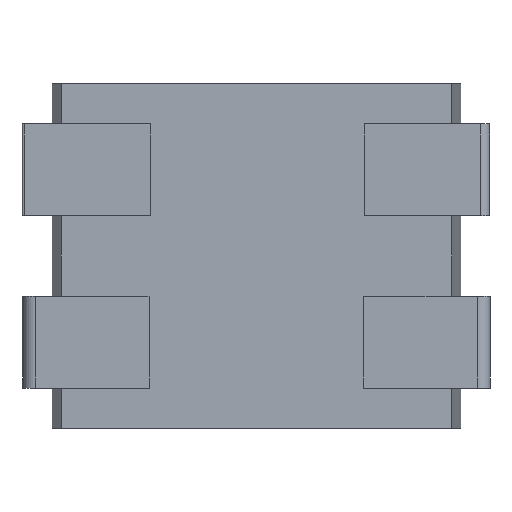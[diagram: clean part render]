
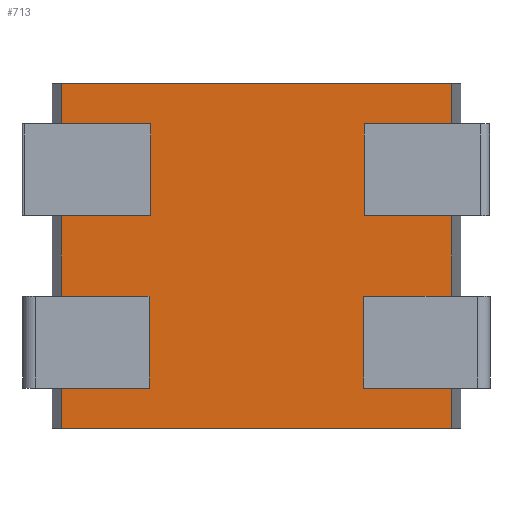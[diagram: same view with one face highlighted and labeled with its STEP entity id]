
A CAD part, front view. The second image highlights one B-rep face of the part: STEP entity #713.
In plain terms, the highlighted planar face has unit normal (0, -1, 0).
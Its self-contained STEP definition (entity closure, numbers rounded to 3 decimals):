
#72 = PLANE('',#73);
#73 = AXIS2_PLACEMENT_3D('',#74,#75,#76);
#74 = CARTESIAN_POINT('',(-1.702,1.057,3.));
#75 = DIRECTION('',(0.,0.,1.));
#76 = DIRECTION('',(1.,0.,0.));
#126 = PLANE('',#127);
#127 = AXIS2_PLACEMENT_3D('',#128,#129,#130);
#128 = CARTESIAN_POINT('',(-1.702,1.057,0.));
#129 = DIRECTION('',(0.,0.,1.));
#130 = DIRECTION('',(1.,0.,0.));
#301 = VERTEX_POINT('',#302);
#302 = CARTESIAN_POINT('',(1.698,-1.036,0.));
#316 = PLANE('',#317);
#317 = AXIS2_PLACEMENT_3D('',#318,#319,#320);
#318 = CARTESIAN_POINT('',(1.777,-0.14,0.));
#319 = DIRECTION('',(0.996,-0.087,0.));
#320 = DIRECTION('',(-0.087,-0.996,0.));
#328 = EDGE_CURVE('',#301,#329,#331,.T.);
#329 = VERTEX_POINT('',#330);
#330 = CARTESIAN_POINT('',(-1.702,-1.036,0.));
#331 = SURFACE_CURVE('',#332,(#336,#343),.PCURVE_S1.);
#332 = LINE('',#333,#334);
#333 = CARTESIAN_POINT('',(1.698,-1.036,0.));
#334 = VECTOR('',#335,1.);
#335 = DIRECTION('',(-1.,0.,0.));
#336 = PCURVE('',#126,#337);
#337 = DEFINITIONAL_REPRESENTATION('',(#338),#342);
#338 = LINE('',#339,#340);
#339 = CARTESIAN_POINT('',(3.4,-2.093));
#340 = VECTOR('',#341,1.);
#341 = DIRECTION('',(-1.,0.));
#342 = ( GEOMETRIC_REPRESENTATION_CONTEXT(2) 
PARAMETRIC_REPRESENTATION_CONTEXT() REPRESENTATION_CONTEXT('2D SPACE',''
  ) );
#343 = PCURVE('',#344,#349);
#344 = PLANE('',#345);
#345 = AXIS2_PLACEMENT_3D('',#346,#347,#348);
#346 = CARTESIAN_POINT('',(1.698,-1.036,0.));
#347 = DIRECTION('',(0.,-1.,0.));
#348 = DIRECTION('',(-1.,0.,0.));
#349 = DEFINITIONAL_REPRESENTATION('',(#350),#354);
#350 = LINE('',#351,#352);
#351 = CARTESIAN_POINT('',(0.,-0.));
#352 = VECTOR('',#353,1.);
#353 = DIRECTION('',(1.,0.));
#354 = ( GEOMETRIC_REPRESENTATION_CONTEXT(2) 
PARAMETRIC_REPRESENTATION_CONTEXT() REPRESENTATION_CONTEXT('2D SPACE',''
  ) );
#372 = PLANE('',#373);
#373 = AXIS2_PLACEMENT_3D('',#374,#375,#376);
#374 = CARTESIAN_POINT('',(-1.702,-1.036,0.));
#375 = DIRECTION('',(-0.996,-0.087,0.));
#376 = DIRECTION('',(-0.087,0.996,0.));
#457 = VERTEX_POINT('',#458);
#458 = CARTESIAN_POINT('',(1.698,-1.036,3.));
#479 = EDGE_CURVE('',#457,#480,#482,.T.);
#480 = VERTEX_POINT('',#481);
#481 = CARTESIAN_POINT('',(-1.702,-1.036,3.));
#482 = SURFACE_CURVE('',#483,(#487,#494),.PCURVE_S1.);
#483 = LINE('',#484,#485);
#484 = CARTESIAN_POINT('',(1.698,-1.036,3.));
#485 = VECTOR('',#486,1.);
#486 = DIRECTION('',(-1.,0.,0.));
#487 = PCURVE('',#72,#488);
#488 = DEFINITIONAL_REPRESENTATION('',(#489),#493);
#489 = LINE('',#490,#491);
#490 = CARTESIAN_POINT('',(3.4,-2.093));
#491 = VECTOR('',#492,1.);
#492 = DIRECTION('',(-1.,0.));
#493 = ( GEOMETRIC_REPRESENTATION_CONTEXT(2) 
PARAMETRIC_REPRESENTATION_CONTEXT() REPRESENTATION_CONTEXT('2D SPACE',''
  ) );
#494 = PCURVE('',#344,#495);
#495 = DEFINITIONAL_REPRESENTATION('',(#496),#500);
#496 = LINE('',#497,#498);
#497 = CARTESIAN_POINT('',(0.,-3.));
#498 = VECTOR('',#499,1.);
#499 = DIRECTION('',(1.,0.));
#500 = ( GEOMETRIC_REPRESENTATION_CONTEXT(2) 
PARAMETRIC_REPRESENTATION_CONTEXT() REPRESENTATION_CONTEXT('2D SPACE',''
  ) );
#692 = EDGE_CURVE('',#301,#457,#693,.T.);
#693 = SURFACE_CURVE('',#694,(#698,#705),.PCURVE_S1.);
#694 = LINE('',#695,#696);
#695 = CARTESIAN_POINT('',(1.698,-1.036,0.));
#696 = VECTOR('',#697,1.);
#697 = DIRECTION('',(0.,0.,1.));
#698 = PCURVE('',#316,#699);
#699 = DEFINITIONAL_REPRESENTATION('',(#700),#704);
#700 = LINE('',#701,#702);
#701 = CARTESIAN_POINT('',(0.9,0.));
#702 = VECTOR('',#703,1.);
#703 = DIRECTION('',(0.,-1.));
#704 = ( GEOMETRIC_REPRESENTATION_CONTEXT(2) 
PARAMETRIC_REPRESENTATION_CONTEXT() REPRESENTATION_CONTEXT('2D SPACE',''
  ) );
#705 = PCURVE('',#344,#706);
#706 = DEFINITIONAL_REPRESENTATION('',(#707),#711);
#707 = LINE('',#708,#709);
#708 = CARTESIAN_POINT('',(0.,-0.));
#709 = VECTOR('',#710,1.);
#710 = DIRECTION('',(0.,-1.));
#711 = ( GEOMETRIC_REPRESENTATION_CONTEXT(2) 
PARAMETRIC_REPRESENTATION_CONTEXT() REPRESENTATION_CONTEXT('2D SPACE',''
  ) );
#713 = ADVANCED_FACE('',(#714),#344,.T.);
#714 = FACE_BOUND('',#715,.T.);
#715 = EDGE_LOOP('',(#716,#717,#718,#739));
#716 = ORIENTED_EDGE('',*,*,#692,.T.);
#717 = ORIENTED_EDGE('',*,*,#479,.T.);
#718 = ORIENTED_EDGE('',*,*,#719,.F.);
#719 = EDGE_CURVE('',#329,#480,#720,.T.);
#720 = SURFACE_CURVE('',#721,(#725,#732),.PCURVE_S1.);
#721 = LINE('',#722,#723);
#722 = CARTESIAN_POINT('',(-1.702,-1.036,0.));
#723 = VECTOR('',#724,1.);
#724 = DIRECTION('',(0.,0.,1.));
#725 = PCURVE('',#344,#726);
#726 = DEFINITIONAL_REPRESENTATION('',(#727),#731);
#727 = LINE('',#728,#729);
#728 = CARTESIAN_POINT('',(3.4,0.));
#729 = VECTOR('',#730,1.);
#730 = DIRECTION('',(0.,-1.));
#731 = ( GEOMETRIC_REPRESENTATION_CONTEXT(2) 
PARAMETRIC_REPRESENTATION_CONTEXT() REPRESENTATION_CONTEXT('2D SPACE',''
  ) );
#732 = PCURVE('',#372,#733);
#733 = DEFINITIONAL_REPRESENTATION('',(#734),#738);
#734 = LINE('',#735,#736);
#735 = CARTESIAN_POINT('',(0.,0.));
#736 = VECTOR('',#737,1.);
#737 = DIRECTION('',(0.,-1.));
#738 = ( GEOMETRIC_REPRESENTATION_CONTEXT(2) 
PARAMETRIC_REPRESENTATION_CONTEXT() REPRESENTATION_CONTEXT('2D SPACE',''
  ) );
#739 = ORIENTED_EDGE('',*,*,#328,.F.);
